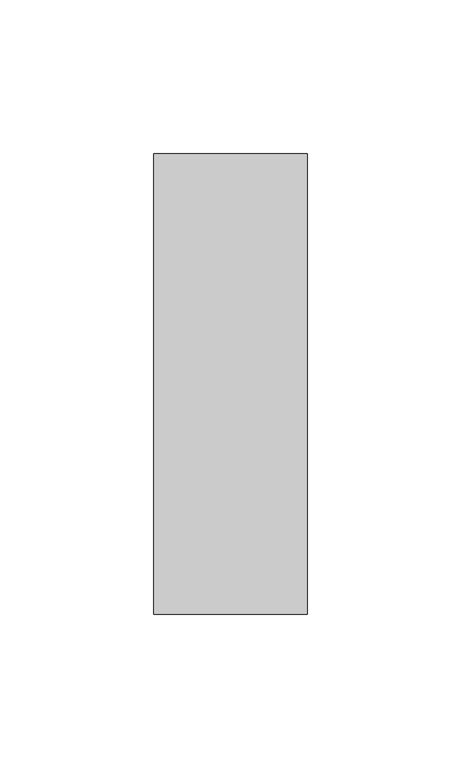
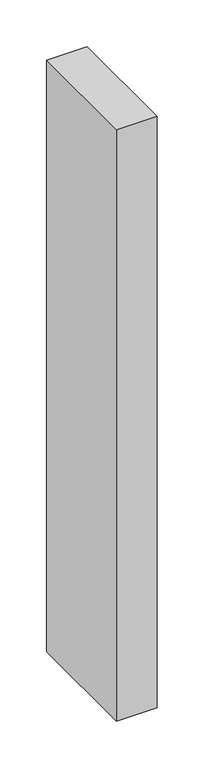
"""IFC4 building model written with IfcOpenShell, lengths in millimetres: member geometry, Прямоугольный импост : 50 x 150 мм."""

from ifc_helpers import new_model, si_unit, frame, origin, place, context, project, spatial, polyline, outline, extrude, source, transform, mapped, element, save


def member_cef579f9(model_context):
    return source(origin(), model_context, "Body", "SweptSolid", [
        extrude(outline(polyline([(25.0, 75.0), (25.0, -75.0), (-25.0, -75.0), (-25.0, 75.0), (25.0, 75.0)])), frame((0.0, 0.0, -772.706178), z_axis=(0.0, 0.0, 1.0), x_axis=(1.0, 0.0, 0.0)), (0.0, 0.0, 1.0), 772.706178),
    ])


if __name__ == "__main__":
    model = new_model("IFC4")
    model_context = context("Model", 3, world=origin())
    ifc_project = project(units=[si_unit("LENGTHUNIT", "METRE", prefix="MILLI")], contexts=[model_context])
    site = spatial("IfcSite", under=ifc_project)
    building = spatial("IfcBuilding", under=site)
    placement = place(None, origin())
    member_shape = member_cef579f9(model_context)
    element("IfcMember", 1, ObjectType="Прямоугольный импост : 50 x 150 мм", at=placement, inside=building, context=model_context, shape_type="MappedRepresentation", body=[
        mapped(member_shape, transform((0.0, 0.0, 0.0), x_axis=(1.0, 0.0, 0.0), y_axis=(0.0, 1.0, 0.0), z_axis=(0.0, 0.0, 1.0))),
    ])
    save(model, "model.ifc")
